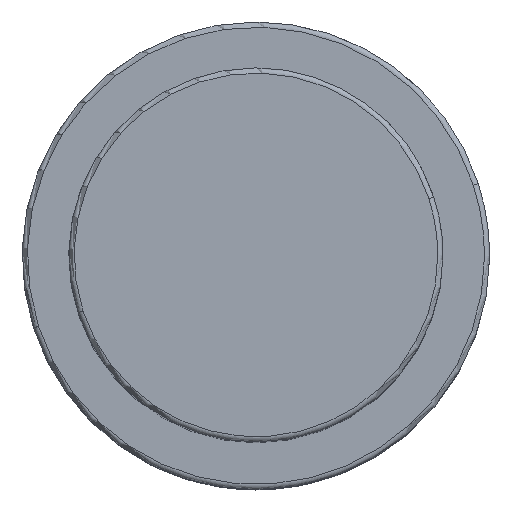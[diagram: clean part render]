
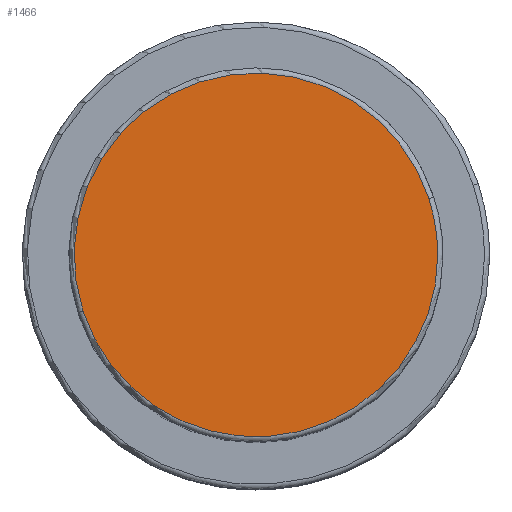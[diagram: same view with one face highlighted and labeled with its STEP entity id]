
A CAD part, top view. The second image highlights one B-rep face of the part: STEP entity #1466.
In plain terms, the highlighted planar face has unit normal (0, 0, 1).
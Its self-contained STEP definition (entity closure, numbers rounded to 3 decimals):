
#1432=CARTESIAN_POINT('',(17.5,0.0,73.0));
#1433=VERTEX_POINT('',#1432);
#1434=CARTESIAN_POINT('',(16.643,5.408,73.0));
#1435=VERTEX_POINT('',#1434);
#1436=CARTESIAN_POINT('',(0.0,0.0,73.0));
#1437=DIRECTION('',(0.0,0.0,1.0));
#1438=DIRECTION('',(1.0,0.0,0.0));
#1439=AXIS2_PLACEMENT_3D('',#1436,#1437,#1438);
#1440=CIRCLE('',#1439,17.5);
#1441=EDGE_CURVE('no 1615',#1433,#1435,#1440,.T.);
#1442=ORIENTED_EDGE('',*,*,#1441,.T.);
#1443=CARTESIAN_POINT('',(-16.643,-5.408,73.0));
#1444=VERTEX_POINT('',#1443);
#1445=CARTESIAN_POINT('',(0.0,0.0,73.0));
#1446=DIRECTION('',(0.0,0.0,1.0));
#1447=DIRECTION('',(1.0,0.0,0.0));
#1448=AXIS2_PLACEMENT_3D('',#1445,#1446,#1447);
#1449=CIRCLE('',#1448,17.5);
#1450=EDGE_CURVE('no 1621',#1435,#1444,#1449,.T.);
#1451=ORIENTED_EDGE('',*,*,#1450,.T.);
#1452=CARTESIAN_POINT('',(0.0,0.0,73.0));
#1453=DIRECTION('',(0.0,0.0,1.0));
#1454=DIRECTION('',(1.0,0.0,0.0));
#1455=AXIS2_PLACEMENT_3D('',#1452,#1453,#1454);
#1456=CIRCLE('',#1455,17.5);
#1457=EDGE_CURVE('no 1625',#1444,#1433,#1456,.T.);
#1458=ORIENTED_EDGE('',*,*,#1457,.T.);
#1459=EDGE_LOOP('',(#1442,#1451,#1458));
#1460=FACE_OUTER_BOUND('',#1459,.T.);
#1461=CARTESIAN_POINT('',(0.0,0.0,73.0));
#1462=DIRECTION('',(0.0,0.0,1.0));
#1463=DIRECTION('',(1.0,0.0,0.0));
#1464=AXIS2_PLACEMENT_3D('',#1461,#1462,#1463);
#1465=PLANE('',#1464);
#1466=ADVANCED_FACE('no 1606',(#1460),#1465,.T.);
